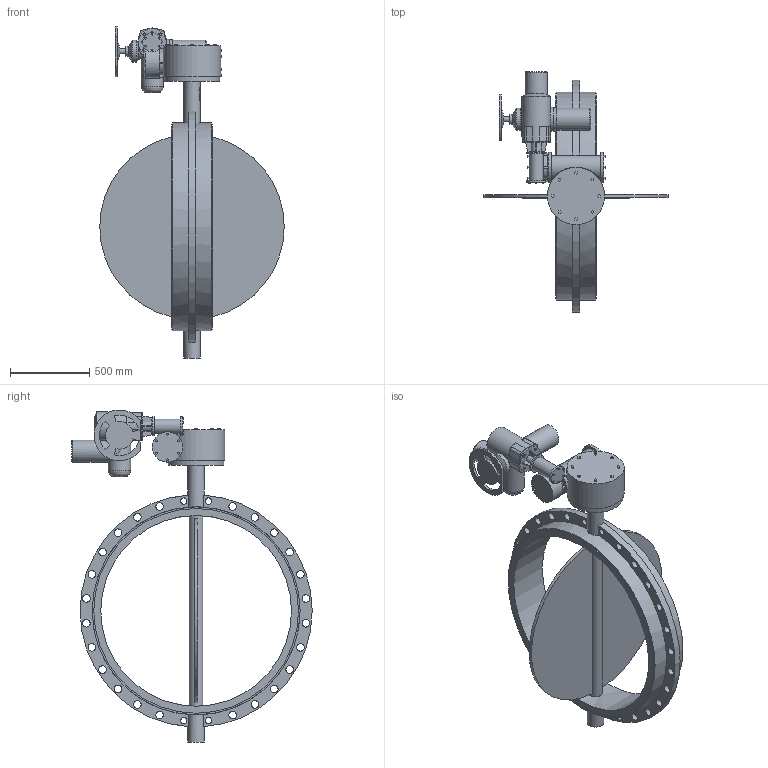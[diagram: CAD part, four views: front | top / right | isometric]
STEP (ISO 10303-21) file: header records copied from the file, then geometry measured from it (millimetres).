
FILE_DESCRIPTION(('STEP AP203'), '1');
FILE_NAME('青蜮铕 017W.YS_DN1200_PN16_MT903.A30', '', ('UNSPECIFIED'), ('UNSPECIFIED'), 'ASCON STEP Converter 1.6', 'ASCON Math Kernel', '');
FILE_SCHEMA(('CONFIG_CONTROL_DESIGN'));
Length unit declared in the file: millimetre
Bounding box: 1160.6 x 1512 x 2088.49 mm (x, y, z)
Volume: 148569783 mm3; surface area: 7096966.2 mm2
Topology: 1 solids, 1 shells, 574 faces, 1483 edges, 974 vertices
Faces by surface type: plane 411, cylinder 117, cone 25, torus 19, bspline 2
Full cylindrical faces by diameter (mm): 14 x4, 17.294 x8, 18 x4, 22 x8, 32 x1, 40.129 x4, 48 x24, 60 x1, 85 x1, 90 x1, 100 x1, 105 x2, 120 x2, 140 x4, 147 x1, 150 x1, 151 x1, 175 x1, 190 x3, 350 x1, 360 x1, 1200 x1, 1288 x2, 1308 x2
Entity records: 26132 total; most frequent: CARTESIAN_POINT 7727, ORIENTED_EDGE 2740, DIRECTION 2715, EDGE_CURVE 1370, LINE 971, VECTOR 971, VERTEX_POINT 968, AXIS2_PLACEMENT_3D 872
